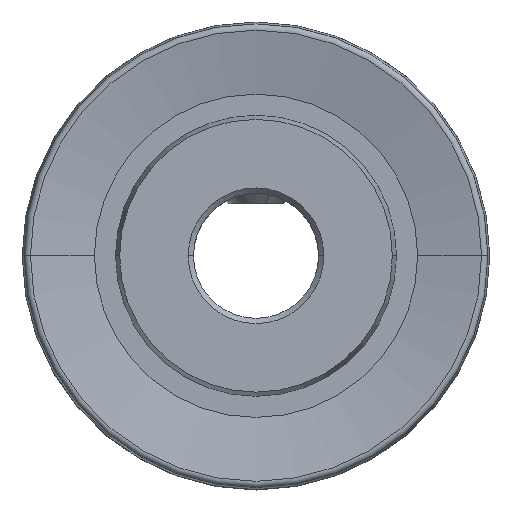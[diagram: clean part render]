
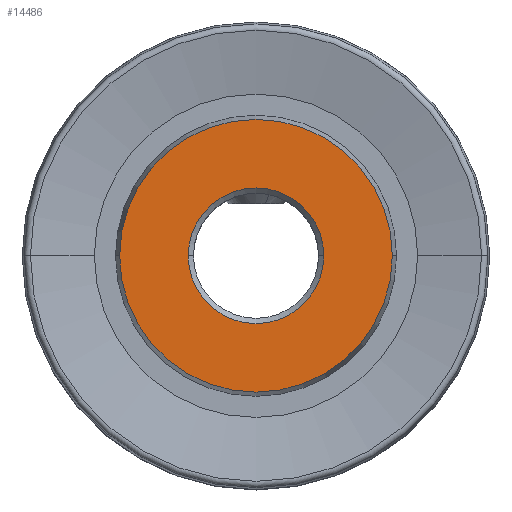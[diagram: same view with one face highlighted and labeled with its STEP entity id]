
A CAD part, top view. The second image highlights one B-rep face of the part: STEP entity #14486.
In plain terms, the highlighted planar face has unit normal (0, 0, 1).
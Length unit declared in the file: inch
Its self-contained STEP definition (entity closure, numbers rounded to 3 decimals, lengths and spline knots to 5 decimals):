
#205 = EDGE_CURVE ( 'NONE', #5566, #2504, #3903, .T. ) ;
#375 = AXIS2_PLACEMENT_3D ( 'NONE', #11071, #6280, #14742 ) ;
#717 = DIRECTION ( 'NONE',  ( 1., 0., 0. ) ) ;
#1669 = CARTESIAN_POINT ( 'NONE',  ( 0., 0., 0.2855 ) ) ;
#2313 = FACE_OUTER_BOUND ( 'NONE', #13065, .T. ) ;
#2327 = CARTESIAN_POINT ( 'NONE',  ( 0., 0., 0.2855 ) ) ;
#2504 = VERTEX_POINT ( 'NONE', #15518 ) ;
#2833 = CARTESIAN_POINT ( 'NONE',  ( 0., 0., 0.2855 ) ) ;
#3226 = CIRCLE ( 'NONE', #4623, 0.2575 ) ;
#3903 = CIRCLE ( 'NONE', #14707, 0.2575 ) ;
#4084 = DIRECTION ( 'NONE',  ( 0., 0., 1. ) ) ;
#4309 = DIRECTION ( 'NONE',  ( 0., 0., 1. ) ) ;
#4623 = AXIS2_PLACEMENT_3D ( 'NONE', #2327, #4761, #6195 ) ;
#4761 = DIRECTION ( 'NONE',  ( 0., 0., 1. ) ) ;
#5327 = VERTEX_POINT ( 'NONE', #13155 ) ;
#5566 = VERTEX_POINT ( 'NONE', #8343 ) ;
#6195 = DIRECTION ( 'NONE',  ( 1., 0., 0. ) ) ;
#6280 = DIRECTION ( 'NONE',  ( 0., 0., -1. ) ) ;
#7270 = CARTESIAN_POINT ( 'NONE',  ( -0.12811, 0., 0.2855 ) ) ;
#8343 = CARTESIAN_POINT ( 'NONE',  ( -0.2575, 0., 0.2855 ) ) ;
#8571 = ORIENTED_EDGE ( 'NONE', *, *, #14036, .T. ) ;
#8878 = AXIS2_PLACEMENT_3D ( 'NONE', #2833, #4309, #717 ) ;
#9003 = VERTEX_POINT ( 'NONE', #7270 ) ;
#10014 = PLANE ( 'NONE',  #8878 ) ;
#10120 = EDGE_LOOP ( 'NONE', ( #14668, #14773 ) ) ;
#10150 = DIRECTION ( 'NONE',  ( 0., 0., -1. ) ) ;
#11071 = CARTESIAN_POINT ( 'NONE',  ( 0., 0., 0.2855 ) ) ;
#12270 = EDGE_CURVE ( 'NONE', #5327, #9003, #15284, .T. ) ;
#12299 = EDGE_CURVE ( 'NONE', #9003, #5327, #13432, .T. ) ;
#12466 = DIRECTION ( 'NONE',  ( 1., 0., 0. ) ) ;
#12943 = ORIENTED_EDGE ( 'NONE', *, *, #205, .T. ) ;
#13065 = EDGE_LOOP ( 'NONE', ( #12943, #8571 ) ) ;
#13155 = CARTESIAN_POINT ( 'NONE',  ( 0.12811, 0., 0.2855 ) ) ;
#13432 = CIRCLE ( 'NONE', #13448, 0.12811 ) ;
#13448 = AXIS2_PLACEMENT_3D ( 'NONE', #1669, #10150, #12466 ) ;
#13494 = FACE_BOUND ( 'NONE', #10120, .T. ) ;
#13669 = DIRECTION ( 'NONE',  ( 1., 0., 0. ) ) ;
#14036 = EDGE_CURVE ( 'NONE', #2504, #5566, #3226, .T. ) ;
#14486 = ADVANCED_FACE ( 'NONE', ( #2313, #13494 ), #10014, .T. ) ;
#14668 = ORIENTED_EDGE ( 'NONE', *, *, #12270, .T. ) ;
#14707 = AXIS2_PLACEMENT_3D ( 'NONE', #14931, #4084, #13669 ) ;
#14742 = DIRECTION ( 'NONE',  ( 1., 0., 0. ) ) ;
#14773 = ORIENTED_EDGE ( 'NONE', *, *, #12299, .T. ) ;
#14931 = CARTESIAN_POINT ( 'NONE',  ( 0., 0., 0.2855 ) ) ;
#15284 = CIRCLE ( 'NONE', #375, 0.12811 ) ;
#15518 = CARTESIAN_POINT ( 'NONE',  ( 0.2575, 0., 0.2855 ) ) ;
